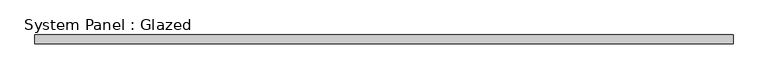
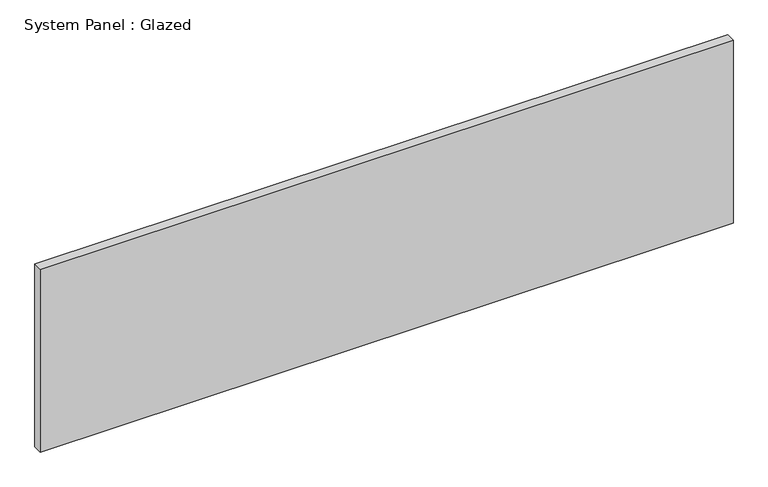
"""IFC4 building model written with IfcOpenShell, lengths in millimetres: plate geometry, System Panel : Glazed."""

from ifc_helpers import new_model, si_unit, origin, origin_with_axes, place, context, project, spatial, polyline, outline, extrude, source, transform, mapped, element, save


def system_panel_glazed_68a4d442(model_context):
    return source(origin(), model_context, "Body", "SweptSolid", [
        extrude(outline(polyline([(977.9, -44.45), (-977.9, -44.45), (-977.9, -19.05), (977.9, -19.05), (977.9, -44.45)])), origin_with_axes(), (0.0, 0.0, 1.0), 546.1),
    ])


if __name__ == "__main__":
    model = new_model("IFC4")
    model_context = context("Model", 3, world=origin())
    ifc_project = project(units=[si_unit("LENGTHUNIT", "METRE", prefix="MILLI")], contexts=[model_context])
    site = spatial("IfcSite", under=ifc_project)
    building = spatial("IfcBuilding", under=site)
    placement = place(None, origin())
    system_panel_glazed_shape = system_panel_glazed_68a4d442(model_context)
    element("IfcPlate", 1, ObjectType="System Panel : Glazed", at=placement, inside=building, context=model_context, shape_type="MappedRepresentation", body=[
        mapped(system_panel_glazed_shape, transform((0.0, 0.0, 0.0), x_axis=(1.0, 0.0, 0.0), y_axis=(0.0, 1.0, 0.0), z_axis=(0.0, 0.0, 1.0))),
    ])
    save(model, "model.ifc")
